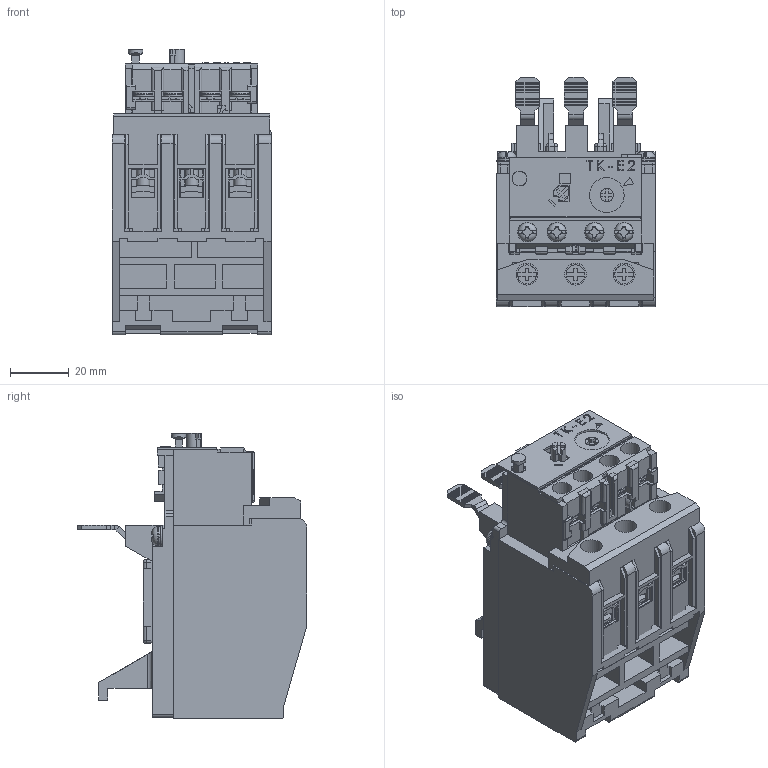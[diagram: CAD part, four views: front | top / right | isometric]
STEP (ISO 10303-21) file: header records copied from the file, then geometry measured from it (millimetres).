
FILE_DESCRIPTION (( 'STEP AP214' ), '1' );
FILE_NAME ('TK-E2.STEP', '2016-03-11T00:30:17', ( '川崎工場' ), ( '富士電機株式会社' ), 'SwSTEP 2.0', 'SolidWorks 2015', '' );
FILE_SCHEMA (( 'AUTOMOTIVE_DESIGN' ));
Length unit declared in the file: millimetre
Products named in the file (26): Screw_M3.5_L10; Plate_M3P5_7P8; Box terminal^TK-E2; TK-E2_keys_M4; TK-E2_Box terminal structure part; TK-E2_main terminal cover; TK-E2_auxiliary terminal cover; TK-E2_reset button; TK-E2_test button; TK-E2_main terminal plate; TK-E2_auxiliary terminal plate; Screw M4^TK-E2; TK-E2_scale; Washer_M4; TK-E2_line plate; Springwasher_M4; TK-E2_nameplate; Screw_M4_L8; TK-E2_Upper Case; Screw M3P5^TK-E2; TK-E2_Lower Case; Washer_M3P5; Screw_M3.5_L7; TK-E2; auxiliary terminal^TK-E2; Springwasher_M3P5
Assembly tree (41 placements, depth 3):
  TK-E2
    TK-E2_Lower Case
    TK-E2_Upper Case
    TK-E2_nameplate
    TK-E2_line plate  x3
    TK-E2_scale
    TK-E2_auxiliary terminal plate  x4
    TK-E2_main terminal plate  x3
    TK-E2_test button
    TK-E2_reset button
    TK-E2_auxiliary terminal cover
    TK-E2_main terminal cover
    Box terminal^TK-E2  x3
      TK-E2_Box terminal structure part
      TK-E2_keys_M4
    auxiliary terminal^TK-E2  x4
      Plate_M3P5_7P8
      Screw_M3.5_L10
      Springwasher_M3P5
    Screw M3P5^TK-E2  x2
      Screw_M3.5_L7
      Springwasher_M3P5
      Washer_M3P5
    Screw M4^TK-E2  x3
      Screw_M4_L8
      Springwasher_M4
      Washer_M4
Bounding box: 54.3 x 78.06 x 97 mm (x, y, z)
Volume: 181101.8 mm3; surface area: 80777.9 mm2
Topology: 51 solids, 51 shells, 1987 faces, 5442 edges, 3550 vertices
Faces by surface type: plane 1646, cylinder 296, cone 16, sphere 12, torus 11, bspline 6
Full cylindrical faces by diameter (mm): 3 x6, 3.5 x20, 3.8 x2, 4 x3, 4.3 x3, 4.6 x3, 5 x2, 5.3 x6, 6.4 x3, 6.6 x4, 7 x2, 7.4 x3, 8 x3, 11.8 x2, 12 x1
Entity records: 43506 total; most frequent: CARTESIAN_POINT 8305, ORIENTED_EDGE 7272, DIRECTION 6712, EDGE_CURVE 3636, VECTOR 3114, LINE 3114, VERTEX_POINT 2398, AXIS2_PLACEMENT_3D 1799
